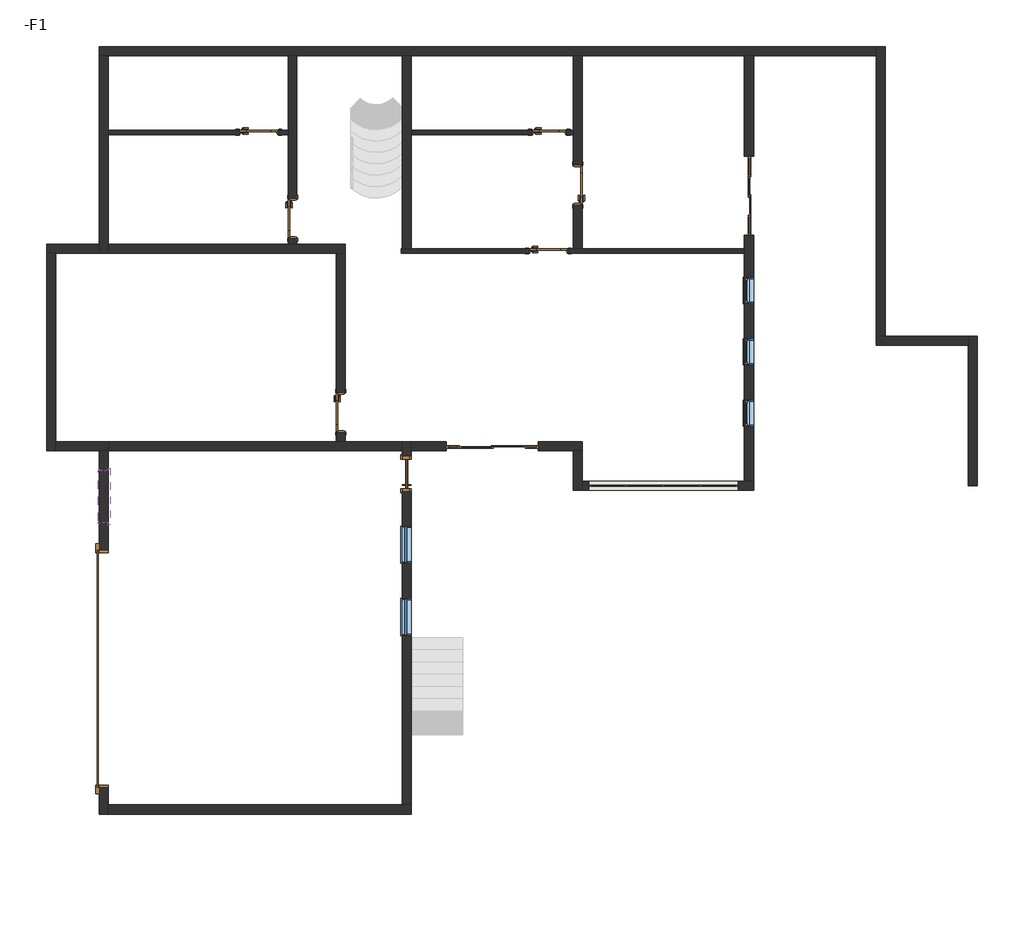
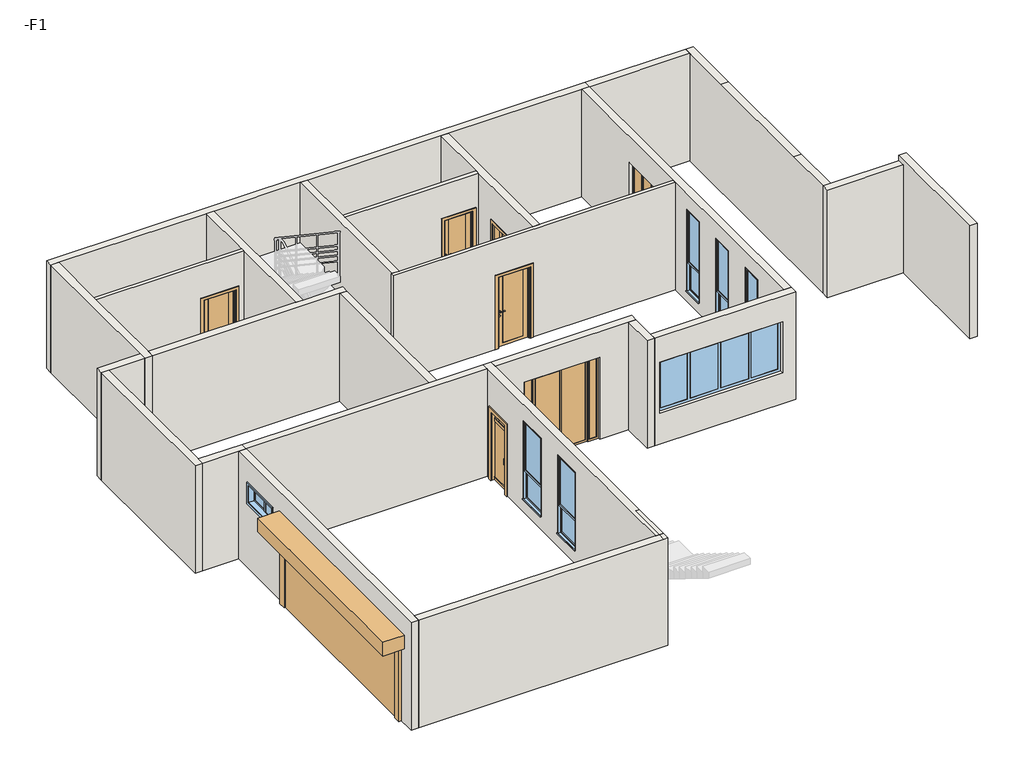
# One storey, part 1 of 3: 24 walls, 10 doors, 7 windows.
"""IFC4 building model written with IfcOpenShell, lengths in millimetres."""

from ifc_helpers import new_model, si_unit, frame, origin, place, context, project, spatial, polyline, outline, extrude, faceted_brep, transform, mapped, element, save
from components import door_800_x_2100_mm_cdd5fc6d, door_900_x_2100_mm_c85060e9, door_900_x_2100_mm_efe0f083, jlm5422_f6e8e53c, m0821_c18f4d9a, ym2124_6b214408, ym3267_0cb6c473, c0624_d918e3f5, c0823_e49a13fc, c1206_2babd59b, c3415_a57d7b54

model = new_model("IFC4")

# Units and contexts
model_context = context("Model", 3, world=origin())
ifc_project = project(units=[si_unit("LENGTHUNIT", "METRE", prefix="MILLI")], contexts=[model_context])

# Site, building, storey
site = spatial("IfcSite", under=ifc_project)
building = spatial("IfcBuilding", under=site)
storey = spatial("IfcBuildingStorey", under=building, Name="-F1", Elevation=-3300.0)

# Doors
placement = place(None, origin())
door_800_x_2100_mm_shape = door_800_x_2100_mm_cdd5fc6d(model_context)
element("IfcDoor", 1, ObjectType="单扇平开门-木门 : 800 x 2100 mm", at=placement, inside=storey, context=model_context, shape_type="MappedRepresentation", body=[
    mapped(door_800_x_2100_mm_shape, transform((-6705.9782681, -1381.0286905, -3300.0), x_axis=(1.0, 0.0, 0.0), y_axis=(0.0, 1.0, 0.0), z_axis=(0.0, 0.0, 1.0))),
])
door_900_x_2100_mm_shape = door_900_x_2100_mm_c85060e9(model_context)
element("IfcDoor", 2, ObjectType="单扇平开门-木门 : 900 x 2100 mm", at=placement, inside=storey, context=model_context, shape_type="MappedRepresentation", body=[
    mapped(door_900_x_2100_mm_shape, transform((-6055.9782681, -2581.0286905, -3300.0), x_axis=(0.0, 1.0, 0.0), y_axis=(-1.0, 0.0, 0.0), z_axis=(0.0, 0.0, 1.0))),
])
element("IfcDoor", 3, ObjectType="单扇平开门-木门 : 900 x 2100 mm", at=placement, inside=storey, context=model_context, shape_type="MappedRepresentation", body=[
    mapped(door_900_x_2100_mm_shape, transform((-12555.9782681, -3341.0286905, -3300.0), x_axis=(0.0, -1.0, 0.0), y_axis=(1.0, 0.0, 0.0), z_axis=(0.0, 0.0, 1.0))),
])
element("IfcDoor", 4, ObjectType="单扇平开门-木门 : 900 x 2100 mm", at=placement, inside=storey, context=model_context, shape_type="MappedRepresentation", body=[
    mapped(door_900_x_2100_mm_shape, transform((-11455.9782681, -7761.0286905, -3300.0), x_axis=(0.0, -1.0, 0.0), y_axis=(1.0, 0.0, 0.0), z_axis=(0.0, 0.0, 1.0))),
])
door_900_x_2100_mm_2_shape = door_900_x_2100_mm_efe0f083(model_context)
element("IfcDoor", 5, ObjectType="单扇平开门-木门 : 900 x 2100 mm", at=placement, inside=storey, context=model_context, shape_type="MappedRepresentation", body=[
    mapped(door_900_x_2100_mm_2_shape, transform((-6725.9782681, -4081.0286905, -3300.0), x_axis=(1.0, 0.0, 0.0), y_axis=(0.0, 1.0, 0.0), z_axis=(0.0, 0.0, 1.0))),
])
element("IfcDoor", 6, ObjectType="单扇平开门-木门 : 900 x 2100 mm", at=placement, inside=storey, context=model_context, shape_type="MappedRepresentation", body=[
    mapped(door_900_x_2100_mm_2_shape, transform((-13325.9782681, -1381.0286905, -3300.0), x_axis=(1.0, 0.0, 0.0), y_axis=(0.0, 1.0, 0.0), z_axis=(0.0, 0.0, 1.0))),
])
jlm5422_shape = jlm5422_f6e8e53c(model_context)
element("IfcDoor", 7, ObjectType="卷帘门 : JLM5422", at=placement, inside=storey, context=model_context, shape_type="MappedRepresentation", body=[
    mapped(jlm5422_shape, transform((-16855.9782681, -13606.0286905, -3300.0), x_axis=(0.0, 1.0, 0.0), y_axis=(-1.0, 0.0, 0.0), z_axis=(0.0, 0.0, 1.0))),
])
m0821_shape = m0821_c18f4d9a(model_context)
element("IfcDoor", 8, ObjectType="平开玻璃门B-单扇2 : M0821", at=placement, inside=storey, context=model_context, shape_type="MappedRepresentation", body=[
    mapped(m0821_shape, transform((-9955.9782681, -8911.0286905, -3300.0), x_axis=(0.0, 1.0, 0.0), y_axis=(-1.0, 0.0, 0.0), z_axis=(0.0, 0.0, 1.0))),
])
ym2124_shape = ym2124_6b214408(model_context)
element("IfcDoor", 9, ObjectType="移门-推拉门 : YM2124", at=placement, inside=storey, context=model_context, shape_type="MappedRepresentation", body=[
    mapped(ym2124_shape, transform((-8005.9782681, -8531.0286905, -3300.0), x_axis=(-1.0, 0.0, 0.0), y_axis=(0.0, -1.0, 0.0), z_axis=(0.0, 0.0, 1.0))),
])
ym3267_shape = ym3267_0cb6c473(model_context)
element("IfcDoor", 10, ObjectType="移门-推拉门 : YM3267", at=placement, inside=storey, context=model_context, shape_type="MappedRepresentation", body=[
    mapped(ym3267_shape, transform((-2155.9782681, -2831.0286905, -3300.0), x_axis=(0.0, -1.0, 0.0), y_axis=(1.0, 0.0, 0.0), z_axis=(0.0, 0.0, 1.0))),
])

# Walls
element("IfcWall", 11, ObjectType="外饰面 - 200mm", at=placement, inside=storey, context=model_context, shape_type="Brep", body=[
    faceted_brep([(3049.0217319, -9431.0286905, -3300.0), (3049.0217319, -6026.0286905, -3300.0), (3049.0217319, -6026.0286905, 0.0), (3049.0217319, -9431.0286905, 0.0), (2839.0217319, -9431.0286905, -3300.0), (2839.0217319, -9431.0286905, 0.0), (2839.0217319, -6026.0286905, 0.0), (2839.0217319, -6026.0286905, -150.0), (2839.0217319, -6026.0286905, -3300.0), (2839.0217319, -6236.0286905, -3300.0)], [[[0, 1, 2, 3]], [[4, 5, 6, 7, 8, 9]], [[1, 0, 4, 9, 8]], [[3, 2, 6, 5]], [[0, 3, 5, 4]], [[2, 1, 8, 7, 6]]]),
])
element("IfcWall", 12, ObjectType="外饰面 - 200mm", at=placement, inside=storey, context=model_context, shape_type="Brep", body=[
    faceted_brep([(2839.0217319, -6026.0286905, -3300.0), (949.0217319, -6026.0286905, -3300.0), (739.0217319, -6026.0286905, -3300.0), (739.0217319, -6026.0286905, -150.0), (949.0217319, -6026.0286905, -150.0), (2839.0217319, -6026.0286905, -150.0), (2839.0217319, -6236.0286905, -3300.0), (2839.0217319, -6236.0286905, -150.0), (739.0217319, -6236.0286905, -150.0), (739.0217319, -6236.0286905, -3300.0)], [[[0, 1, 2, 3, 4, 5]], [[6, 7, 8, 9]], [[2, 1, 0, 6, 9]], [[5, 4, 3, 8, 7]], [[0, 5, 7, 6]], [[3, 2, 9, 8]]]),
])
element("IfcWall", 13, ObjectType="外饰面 - 200mm", at=placement, inside=storey, context=model_context, shape_type="Brep", body=[
    faceted_brep([(949.0217319, -6026.0286905, -3300.0), (949.0217319, 573.9713095, -3300.0), (949.0217319, 573.9713095, -150.0), (949.0217319, -1118.8242174, -150.0), (949.0217319, -4618.8242174, -150.0), (949.0217319, -6026.0286905, -150.0), (739.0217319, -6026.0286905, -3300.0), (739.0217319, -6026.0286905, -150.0), (739.0217319, -4618.8242174, -150.0), (739.0217319, -1118.8242174, -150.0), (739.0217319, 363.9713095, -150.0), (739.0217319, 573.9713095, -150.0), (739.0217319, 573.9713095, -3300.0), (739.0217319, 363.9713095, -3300.0)], [[[0, 1, 2, 3, 4, 5]], [[6, 7, 8, 9, 10, 11, 12, 13]], [[0, 5, 7, 6]], [[2, 1, 12, 11]], [[1, 0, 6, 13, 12]], [[3, 2, 11, 10, 9]], [[5, 4, 8, 7]], [[4, 3, 9, 8]]]),
])
element("IfcWall", 14, ObjectType="外饰面 - 200mm", at=placement, inside=storey, context=model_context, shape_type="Brep", body=[
    faceted_brep([(739.0217319, 573.9713095, -3300.0), (-16960.9782681, 573.9713095, -3300.0), (-16960.9782681, 573.9713095, -150.0), (-2035.9782681, 573.9713095, -150.0), (739.0217319, 573.9713095, -150.0), (739.0217319, 363.9713095, -3300.0), (739.0217319, 363.9713095, -150.0), (-2035.9782681, 363.9713095, -150.0), (-2050.9782681, 363.9713095, -150.0), (-2260.9782681, 363.9713095, -150.0), (-5955.9782681, 363.9713095, -150.0), (-6155.9782681, 363.9713095, -150.0), (-9855.9782681, 363.9713095, -150.0), (-10055.9782681, 363.9713095, -150.0), (-12455.9782681, 363.9713095, -150.0), (-12655.9782681, 363.9713095, -150.0), (-16750.9782681, 363.9713095, -150.0), (-16960.9782681, 363.9713095, -150.0), (-16960.9782681, 363.9713095, -3300.0), (-16750.9782681, 363.9713095, -3300.0), (-12655.9782681, 363.9713095, -3300.0), (-12455.9782681, 363.9713095, -3300.0), (-10055.9782681, 363.9713095, -3300.0), (-9855.9782681, 363.9713095, -3300.0), (-6155.9782681, 363.9713095, -3300.0), (-5955.9782681, 363.9713095, -3300.0), (-2260.9782681, 363.9713095, -3300.0), (-2050.9782681, 363.9713095, -3300.0)], [[[0, 1, 2, 3, 4]], [[5, 6, 7, 8, 9, 10, 11, 12, 13, 14, 15, 16, 17, 18, 19, 20, 21, 22, 23, 24, 25, 26, 27]], [[1, 0, 5, 27, 26, 25, 24, 23, 22, 21, 20, 19, 18]], [[0, 4, 6, 5]], [[2, 1, 18, 17]], [[4, 3, 7, 6]], [[3, 2, 17, 16, 15, 14, 13, 12, 11, 10, 9, 8, 7]]]),
])
element("IfcWall", 15, ObjectType="外饰面 - 200mm", at=placement, inside=storey, context=model_context, shape_type="Brep", body=[
    faceted_brep([(-16960.9782681, 363.9713095, -3300.0), (-16960.9782681, -3926.0286905, -3300.0), (-16960.9782681, -4136.0286905, -3300.0), (-16960.9782681, -4136.0286905, -150.0), (-16960.9782681, -3926.0286905, -150.0), (-16960.9782681, 363.9713095, -150.0), (-16750.9782681, 363.9713095, -3300.0), (-16750.9782681, 363.9713095, -150.0), (-16750.9782681, -1331.0286905, -150.0), (-16750.9782681, -1431.0286905, -150.0), (-16750.9782681, -3931.0286905, -150.0), (-16750.9782681, -4131.0286905, -150.0), (-16750.9782681, -4136.0286905, -150.0), (-16750.9782681, -4136.0286905, -3300.0), (-16750.9782681, -4131.0286905, -3300.0), (-16750.9782681, -3931.0286905, -3300.0), (-16750.9782681, -1431.0286905, -3300.0), (-16750.9782681, -1331.0286905, -3300.0)], [[[0, 1, 2, 3, 4, 5]], [[6, 7, 8, 9, 10, 11, 12, 13, 14, 15, 16, 17]], [[2, 1, 0, 6, 17, 16, 15, 14, 13]], [[0, 5, 7, 6]], [[3, 2, 13, 12]], [[5, 4, 3, 12, 11, 10, 9, 8, 7]]]),
])
element("IfcWall", 16, ObjectType="外饰面 - 200mm", at=placement, inside=storey, context=model_context, shape_type="Brep", body=[
    faceted_brep([(-16960.9782681, -3926.0286905, -3300.0), (-18160.9782681, -3926.0286905, -3300.0), (-18160.9782681, -3926.0286905, -150.0), (-16960.9782681, -3926.0286905, -150.0), (-16960.9782681, -4136.0286905, -3300.0), (-16960.9782681, -4136.0286905, -150.0), (-17950.9782681, -4136.0286905, -150.0), (-18160.9782681, -4136.0286905, -150.0), (-18160.9782681, -4136.0286905, -3300.0), (-17950.9782681, -4136.0286905, -3300.0)], [[[0, 1, 2, 3]], [[4, 5, 6, 7, 8, 9]], [[1, 0, 4, 9, 8]], [[0, 3, 5, 4]], [[2, 1, 8, 7]], [[3, 2, 7, 6, 5]]]),
])
element("IfcWall", 17, ObjectType="外饰面 - 200mm", at=placement, inside=storey, context=model_context, shape_type="Brep", body=[
    faceted_brep([(-18160.9782681, -4136.0286905, -3300.0), (-18160.9782681, -8636.0286905, -3300.0), (-18160.9782681, -8636.0286905, -150.0), (-18160.9782681, -4136.0286905, -150.0), (-17950.9782681, -4136.0286905, -3300.0), (-17950.9782681, -4136.0286905, -150.0), (-17950.9782681, -8426.0286905, -150.0), (-17950.9782681, -8636.0286905, -150.0), (-17950.9782681, -8636.0286905, -3300.0), (-17950.9782681, -8426.0286905, -3300.0)], [[[0, 1, 2, 3]], [[4, 5, 6, 7, 8, 9]], [[1, 0, 4, 9, 8]], [[0, 3, 5, 4]], [[2, 1, 8, 7]], [[3, 2, 7, 6, 5]]]),
])
element("IfcWall", 18, ObjectType="外饰面 - 200mm", at=placement, inside=storey, context=model_context, shape_type="Brep", body=[
    faceted_brep([(-17950.9782681, -8636.0286905, -3300.0), (-16960.9782681, -8636.0286905, -3300.0), (-16750.9782681, -8636.0286905, -3300.0), (-16750.9782681, -8636.0286905, -150.0), (-16960.9782681, -8636.0286905, -150.0), (-17950.9782681, -8636.0286905, -150.0), (-17950.9782681, -8426.0286905, -3300.0), (-17950.9782681, -8426.0286905, -150.0), (-16750.9782681, -8426.0286905, -150.0), (-16750.9782681, -8426.0286905, -3300.0), (-16750.9782681, -8431.0286905, -3300.0), (-16750.9782681, -8631.0286905, -3300.0), (-16750.9782681, -8431.0286905, -150.0), (-16750.9782681, -8631.0286905, -150.0)], [[[0, 1, 2, 3, 4, 5]], [[6, 7, 8, 9]], [[2, 1, 0, 6, 9, 10, 11]], [[0, 5, 7, 6]], [[3, 2, 11, 10, 9, 8, 12, 13]], [[5, 4, 3, 13, 12, 8, 7]]]),
])
element("IfcWall", 19, ObjectType="外饰面 - 200mm", at=placement, inside=storey, context=model_context, shape_type="Brep", body=[
    faceted_brep([(-16960.9782681, -8636.0286905, -150.0), (-16960.9782681, -8636.0286905, -3300.0), (-16960.9782681, -10906.0286905, -3300.0), (-16960.9782681, -10906.0286905, -1100.0), (-16960.9782681, -16306.0286905, -1100.0), (-16960.9782681, -16306.0286905, -3300.0), (-16960.9782681, -16916.0286905, -3300.0), (-16960.9782681, -16916.0286905, -150.0), (-16960.9782681, -10281.0286905, -800.0), (-16960.9782681, -10281.0286905, -1400.0), (-16960.9782681, -9081.0286905, -1400.0), (-16960.9782681, -9081.0286905, -800.0), (-16750.9782681, -8636.0286905, -3300.0), (-16750.9782681, -8636.0286905, -150.0), (-16750.9782681, -16706.0286905, -150.0), (-16750.9782681, -16916.0286905, -150.0), (-16750.9782681, -16916.0286905, -3300.0), (-16750.9782681, -16706.0286905, -3300.0), (-16750.9782681, -16306.0286905, -3300.0), (-16750.9782681, -16306.0286905, -1100.0), (-16750.9782681, -10906.0286905, -1100.0), (-16750.9782681, -10906.0286905, -3300.0), (-16750.9782681, -10281.0286905, -800.0), (-16750.9782681, -9081.0286905, -800.0), (-16750.9782681, -9081.0286905, -1400.0), (-16750.9782681, -10281.0286905, -1400.0)], [[[0, 1, 2, 3, 4, 5, 6, 7], [8, 9, 10, 11]], [[12, 13, 14, 15, 16, 17, 18, 19, 20, 21], [22, 23, 24, 25]], [[1, 12, 21, 2]], [[16, 6, 5, 18, 17]], [[1, 0, 13, 12]], [[7, 6, 16, 15]], [[9, 8, 22, 25]], [[10, 9, 25, 24]], [[11, 10, 24, 23]], [[8, 11, 23, 22]], [[20, 3, 2, 21]], [[3, 20, 19, 4]], [[4, 19, 18, 5]], [[0, 7, 15, 14, 13]]]),
])
element("IfcWall", 20, ObjectType="外饰面 - 200mm", at=placement, inside=storey, context=model_context, shape_type="Brep", body=[
    faceted_brep([(-16750.9782681, -16916.0286905, -3300.0), (-9850.9782681, -16916.0286905, -3300.0), (-9850.9782681, -16916.0286905, -150.0), (-9955.9782681, -16916.0286905, -150.0), (-16750.9782681, -16916.0286905, -150.0), (-16750.9782681, -16706.0286905, -3300.0), (-16750.9782681, -16706.0286905, -150.0), (-10060.9782681, -16706.0286905, -150.0), (-9955.9782681, -16706.0286905, -150.0), (-9850.9782681, -16706.0286905, -150.0), (-9850.9782681, -16706.0286905, -3300.0), (-10060.9782681, -16706.0286905, -3300.0)], [[[0, 1, 2, 3, 4]], [[5, 6, 7, 8, 9, 10, 11]], [[1, 0, 5, 11, 10]], [[0, 4, 6, 5]], [[2, 1, 10, 9]], [[3, 2, 9, 8]], [[4, 3, 8, 7, 6]]]),
])
element("IfcWall", 21, ObjectType="外饰面 - 200mm", at=placement, inside=storey, context=model_context, shape_type="Brep", body=[
    faceted_brep([(-9850.9782681, -8751.0286905, -1200.0), (-9850.9782681, -8751.0286905, -3300.0), (-9850.9782681, -8636.0286905, -3300.0), (-9850.9782681, -8426.0286905, -3300.0), (-9850.9782681, -8426.0286905, -150.0), (-9850.9782681, -8636.0286905, -150.0), (-9850.9782681, -15551.0286905, -150.0), (-9850.9782681, -16706.0286905, -150.0), (-9850.9782681, -16706.0286905, -3300.0), (-9850.9782681, -9571.0286905, -3300.0), (-9850.9782681, -9571.0286905, -1200.0), (-9850.9782681, -12001.0286905, -625.0), (-9850.9782681, -12001.0286905, -2925.0), (-9850.9782681, -12851.0286905, -2925.0), (-9850.9782681, -12851.0286905, -625.0), (-9850.9782681, -10351.0286905, -625.0), (-9850.9782681, -10351.0286905, -2925.0), (-9850.9782681, -11201.0286905, -2925.0), (-9850.9782681, -11201.0286905, -625.0), (-10060.9782681, -8426.0286905, -3300.0), (-10060.9782681, -8431.0286905, -3300.0), (-10060.9782681, -8631.0286905, -3300.0), (-10060.9782681, -8751.0286905, -3300.0), (-10060.9782681, -8751.0286905, -1200.0), (-10060.9782681, -9571.0286905, -1200.0), (-10060.9782681, -9571.0286905, -3300.0), (-10060.9782681, -16706.0286905, -3300.0), (-10060.9782681, -16706.0286905, -150.0), (-10060.9782681, -15551.0286905, -150.0), (-10060.9782681, -8631.0286905, -150.0), (-10060.9782681, -8431.0286905, -150.0), (-10060.9782681, -8426.0286905, -150.0), (-10060.9782681, -12001.0286905, -625.0), (-10060.9782681, -12851.0286905, -625.0), (-10060.9782681, -12851.0286905, -2925.0), (-10060.9782681, -12001.0286905, -2925.0), (-10060.9782681, -10351.0286905, -625.0), (-10060.9782681, -11201.0286905, -625.0), (-10060.9782681, -11201.0286905, -2925.0), (-10060.9782681, -10351.0286905, -2925.0), (-9955.9782681, -16706.0286905, -150.0), (-9955.9782681, -15551.0286905, -150.0)], [[[0, 1, 2, 3, 4, 5, 6, 7, 8, 9, 10], [11, 12, 13, 14], [15, 16, 17, 18]], [[19, 20, 21, 22, 23, 24, 25, 26, 27, 28, 29, 30, 31], [32, 33, 34, 35], [36, 37, 38, 39]], [[9, 8, 26, 25]], [[3, 2, 1, 22, 21, 20, 19]], [[8, 7, 40, 27, 26]], [[31, 4, 3, 19]], [[12, 11, 32, 35]], [[13, 12, 35, 34]], [[14, 13, 34, 33]], [[11, 14, 33, 32]], [[16, 15, 36, 39]], [[17, 16, 39, 38]], [[18, 17, 38, 37]], [[15, 18, 37, 36]], [[25, 24, 10, 9]], [[23, 22, 1, 0]], [[24, 23, 0, 10]], [[7, 6, 41, 40]], [[6, 5, 4, 31, 30, 29, 28, 27, 40, 41]]]),
])
element("IfcWall", 22, ObjectType="外饰面 - 200mm", at=placement, inside=storey, context=model_context, shape_type="Brep", body=[
    faceted_brep([(-9850.9782681, -8636.0286905, -150.0), (-9850.9782681, -8636.0286905, -3300.0), (-9055.9782681, -8636.0286905, -3300.0), (-9055.9782681, -8636.0286905, -900.0), (-6955.9782681, -8636.0286905, -900.0), (-6955.9782681, -8636.0286905, -3300.0), (-6160.9782681, -8636.0286905, -3300.0), (-5950.9782681, -8636.0286905, -3300.0), (-5950.9782681, -8636.0286905, -150.0), (-6160.9782681, -8636.0286905, -150.0), (-9850.9782681, -8426.0286905, -3300.0), (-9850.9782681, -8426.0286905, -150.0), (-5950.9782681, -8426.0286905, -150.0), (-5950.9782681, -8426.0286905, -3300.0), (-6955.9782681, -8426.0286905, -3300.0), (-6955.9782681, -8426.0286905, -900.0), (-9055.9782681, -8426.0286905, -900.0), (-9055.9782681, -8426.0286905, -3300.0)], [[[0, 1, 2, 3, 4, 5, 6, 7, 8, 9]], [[10, 11, 12, 13, 14, 15, 16, 17]], [[1, 10, 17, 2]], [[13, 7, 6, 5, 14]], [[1, 0, 11, 10]], [[8, 7, 13, 12]], [[16, 3, 2, 17]], [[3, 16, 15, 4]], [[4, 15, 14, 5]], [[0, 9, 8, 12, 11]]]),
])
element("IfcWall", 23, ObjectType="外饰面 - 200mm", at=placement, inside=storey, context=model_context, shape_type="Brep", body=[
    faceted_brep([(-6160.9782681, -8636.0286905, -3300.0), (-6160.9782681, -9536.0286905, -3300.0), (-6160.9782681, -9536.0286905, -150.0), (-6160.9782681, -8636.0286905, -150.0), (-5950.9782681, -8636.0286905, -3300.0), (-5950.9782681, -8636.0286905, -150.0), (-5950.9782681, -9326.0286905, -150.0), (-5950.9782681, -9536.0286905, -150.0), (-5950.9782681, -9536.0286905, -3300.0), (-5950.9782681, -9326.0286905, -3300.0)], [[[0, 1, 2, 3]], [[4, 5, 6, 7, 8, 9]], [[1, 0, 4, 9, 8]], [[0, 3, 5, 4]], [[2, 1, 8, 7]], [[3, 2, 7, 6, 5]]]),
])
element("IfcWall", 24, ObjectType="外饰面 - 200mm", at=placement, inside=storey, context=model_context, shape_type="Brep", body=[
    faceted_brep([(-5950.9782681, -9536.0286905, -3300.0), (-2050.9782681, -9536.0286905, -3300.0), (-2050.9782681, -9536.0286905, -150.0), (-5950.9782681, -9536.0286905, -150.0), (-5805.9782681, -9536.0286905, -2400.0), (-5805.9782681, -9536.0286905, -900.0), (-2405.9782681, -9536.0286905, -900.0), (-2405.9782681, -9536.0286905, -2400.0), (-2050.9782681, -9326.0286905, -3300.0), (-2260.9782681, -9326.0286905, -3300.0), (-5950.9782681, -9326.0286905, -3300.0), (-5950.9782681, -9326.0286905, -150.0), (-2260.9782681, -9326.0286905, -150.0), (-2050.9782681, -9326.0286905, -150.0), (-5805.9782681, -9326.0286905, -900.0), (-5805.9782681, -9326.0286905, -2400.0), (-2405.9782681, -9326.0286905, -2400.0), (-2405.9782681, -9326.0286905, -900.0)], [[[0, 1, 2, 3], [4, 5, 6, 7]], [[8, 9, 10, 11, 12, 13], [14, 15, 16, 17]], [[1, 0, 10, 9, 8]], [[0, 3, 11, 10]], [[2, 1, 8, 13]], [[3, 2, 13, 12, 11]], [[4, 15, 14, 5]], [[6, 17, 16, 7]], [[15, 4, 7, 16]], [[17, 6, 5, 14]]]),
])
element("IfcWall", 25, ObjectType="外饰面 - 200mm", at=placement, inside=storey, context=model_context, shape_type="Brep", body=[
    faceted_brep([(-2050.9782681, -9326.0286905, -150.0), (-2050.9782681, -9326.0286905, -3300.0), (-2050.9782681, -3731.0286905, -3300.0), (-2050.9782681, -3731.0286905, -900.0), (-2050.9782681, -1931.0286905, -900.0), (-2050.9782681, -1931.0286905, -3300.0), (-2050.9782681, 363.9713095, -3300.0), (-2050.9782681, 363.9713095, -150.0), (-2050.9782681, -4681.0286905, -600.0), (-2050.9782681, -4681.0286905, -3000.0), (-2050.9782681, -5281.0286905, -3000.0), (-2050.9782681, -5281.0286905, -600.0), (-2050.9782681, -6081.0286905, -600.0), (-2050.9782681, -6081.0286905, -3000.0), (-2050.9782681, -6681.0286905, -3000.0), (-2050.9782681, -6681.0286905, -600.0), (-2050.9782681, -7481.0286905, -600.0), (-2050.9782681, -7481.0286905, -3000.0), (-2050.9782681, -8081.0286905, -3000.0), (-2050.9782681, -8081.0286905, -600.0), (-2260.9782681, -9326.0286905, -3300.0), (-2260.9782681, -9326.0286905, -150.0), (-2260.9782681, -4131.0286905, -150.0), (-2260.9782681, -4031.0286905, -150.0), (-2260.9782681, 363.9713095, -150.0), (-2260.9782681, 363.9713095, -3300.0), (-2260.9782681, -1931.0286905, -3300.0), (-2260.9782681, -1931.0286905, -900.0), (-2260.9782681, -3731.0286905, -900.0), (-2260.9782681, -3731.0286905, -3300.0), (-2260.9782681, -4031.0286905, -3300.0), (-2260.9782681, -4131.0286905, -3300.0), (-2260.9782681, -4681.0286905, -600.0), (-2260.9782681, -5281.0286905, -600.0), (-2260.9782681, -5281.0286905, -3000.0), (-2260.9782681, -4681.0286905, -3000.0), (-2260.9782681, -6081.0286905, -600.0), (-2260.9782681, -6681.0286905, -600.0), (-2260.9782681, -6681.0286905, -3000.0), (-2260.9782681, -6081.0286905, -3000.0), (-2260.9782681, -7481.0286905, -600.0), (-2260.9782681, -8081.0286905, -600.0), (-2260.9782681, -8081.0286905, -3000.0), (-2260.9782681, -7481.0286905, -3000.0)], [[[0, 1, 2, 3, 4, 5, 6, 7], [8, 9, 10, 11], [12, 13, 14, 15], [16, 17, 18, 19]], [[20, 21, 22, 23, 24, 25, 26, 27, 28, 29, 30, 31], [32, 33, 34, 35], [36, 37, 38, 39], [40, 41, 42, 43]], [[1, 20, 31, 30, 29, 2]], [[25, 6, 5, 26]], [[1, 0, 21, 20]], [[7, 6, 25, 24]], [[9, 8, 32, 35]], [[10, 9, 35, 34]], [[11, 10, 34, 33]], [[8, 11, 33, 32]], [[13, 12, 36, 39]], [[14, 13, 39, 38]], [[15, 14, 38, 37]], [[12, 15, 37, 36]], [[17, 16, 40, 43]], [[18, 17, 43, 42]], [[19, 18, 42, 41]], [[16, 19, 41, 40]], [[28, 3, 2, 29]], [[3, 28, 27, 4]], [[4, 27, 26, 5]], [[0, 7, 24, 23, 22, 21]]]),
])
element("IfcWall", 26, ObjectType="常规 - 200mm - 实心", at=placement, inside=storey, context=model_context, shape_type="Brep", body=[
    faceted_brep([(-6155.9782681, 363.9713095, -150.0), (-6155.9782681, 363.9713095, -3300.0), (-6155.9782681, -1331.0286905, -3300.0), (-6155.9782681, -1431.0286905, -3300.0), (-6155.9782681, -2131.0286905, -3300.0), (-6155.9782681, -2131.0286905, -1200.0), (-6155.9782681, -3031.0286905, -1200.0), (-6155.9782681, -3031.0286905, -3300.0), (-6155.9782681, -4031.0286905, -3300.0), (-6155.9782681, -4031.0286905, -150.0), (-6155.9782681, -1431.0286905, -150.0), (-6155.9782681, -1331.0286905, -150.0), (-5955.9782681, 363.9713095, -3300.0), (-5955.9782681, 363.9713095, -150.0), (-5955.9782681, -4031.0286905, -150.0), (-5955.9782681, -4031.0286905, -3300.0), (-5955.9782681, -3031.0286905, -3300.0), (-5955.9782681, -3031.0286905, -1200.0), (-5955.9782681, -2131.0286905, -1200.0), (-5955.9782681, -2131.0286905, -3300.0)], [[[0, 1, 2, 3, 4, 5, 6, 7, 8, 9, 10, 11]], [[12, 13, 14, 15, 16, 17, 18, 19]], [[1, 12, 19, 4, 3, 2]], [[15, 8, 7, 16]], [[1, 0, 13, 12]], [[9, 8, 15, 14]], [[18, 5, 4, 19]], [[5, 18, 17, 6]], [[6, 17, 16, 7]], [[0, 11, 10, 9, 14, 13]]]),
])
element("IfcWall", 27, ObjectType="常规 - 200mm - 实心", at=placement, inside=storey, context=model_context, shape_type="Brep", body=[
    faceted_brep([(-10055.9782681, 363.9713095, -3300.0), (-10055.9782681, -4031.0286905, -3300.0), (-10055.9782681, -4031.0286905, -150.0), (-10055.9782681, 363.9713095, -150.0), (-9855.9782681, 363.9713095, -3300.0), (-9855.9782681, 363.9713095, -150.0), (-9855.9782681, -1331.0286905, -150.0), (-9855.9782681, -1431.0286905, -150.0), (-9855.9782681, -4031.0286905, -150.0), (-9855.9782681, -4031.0286905, -3300.0), (-9855.9782681, -1431.0286905, -3300.0), (-9855.9782681, -1331.0286905, -3300.0)], [[[0, 1, 2, 3]], [[4, 5, 6, 7, 8, 9, 10, 11]], [[1, 0, 4, 11, 10, 9]], [[0, 3, 5, 4]], [[3, 2, 8, 7, 6, 5]], [[2, 1, 9, 8]]]),
])
element("IfcWall", 28, ObjectType="常规 - 200mm - 实心", at=placement, inside=storey, context=model_context, shape_type="Brep", body=[
    faceted_brep([(-12655.9782681, 363.9713095, -150.0), (-12655.9782681, 363.9713095, -3300.0), (-12655.9782681, -1331.0286905, -3300.0), (-12655.9782681, -1431.0286905, -3300.0), (-12655.9782681, -2891.0286905, -3300.0), (-12655.9782681, -2891.0286905, -1200.0), (-12655.9782681, -3791.0286905, -1200.0), (-12655.9782681, -3791.0286905, -3300.0), (-12655.9782681, -3931.0286905, -3300.0), (-12655.9782681, -3931.0286905, -150.0), (-12655.9782681, -1431.0286905, -150.0), (-12655.9782681, -1331.0286905, -150.0), (-12455.9782681, 363.9713095, -3300.0), (-12455.9782681, 363.9713095, -150.0), (-12455.9782681, 358.9713095, -150.0), (-12455.9782681, -3691.0286905, -150.0), (-12455.9782681, -3931.0286905, -150.0), (-12455.9782681, -3931.0286905, -3300.0), (-12455.9782681, -3791.0286905, -3300.0), (-12455.9782681, -3791.0286905, -1200.0), (-12455.9782681, -2891.0286905, -1200.0), (-12455.9782681, -2891.0286905, -3300.0)], [[[0, 1, 2, 3, 4, 5, 6, 7, 8, 9, 10, 11]], [[12, 13, 14, 15, 16, 17, 18, 19, 20, 21]], [[1, 12, 21, 4, 3, 2]], [[17, 8, 7, 18]], [[1, 0, 13, 12]], [[9, 8, 17, 16]], [[6, 19, 18, 7]], [[19, 6, 5, 20]], [[20, 5, 4, 21]], [[13, 0, 11, 10, 9, 16, 15, 14]]]),
])
element("IfcWall", 29, ObjectType="常规 - 200mm - 实心", at=placement, inside=storey, context=model_context, shape_type="Brep", body=[
    faceted_brep([(-16750.9782681, -4131.0286905, -3300.0), (-11555.9782681, -4131.0286905, -3300.0), (-11355.9782681, -4131.0286905, -3300.0), (-11355.9782681, -4131.0286905, -150.0), (-11555.9782681, -4131.0286905, -150.0), (-16750.9782681, -4131.0286905, -150.0), (-16750.9782681, -3931.0286905, -3300.0), (-16750.9782681, -3931.0286905, -150.0), (-12655.9782681, -3931.0286905, -150.0), (-12455.9782681, -3931.0286905, -150.0), (-11355.9782681, -3931.0286905, -150.0), (-11355.9782681, -3931.0286905, -3300.0), (-12455.9782681, -3931.0286905, -3300.0), (-12655.9782681, -3931.0286905, -3300.0)], [[[0, 1, 2, 3, 4, 5]], [[6, 7, 8, 9, 10, 11, 12, 13]], [[2, 1, 0, 6, 13, 12, 11]], [[0, 5, 7, 6]], [[3, 2, 11, 10]], [[5, 4, 3, 10, 9, 8, 7]]]),
])
element("IfcWall", 30, ObjectType="常规 - 200mm - 实心", at=placement, inside=storey, context=model_context, shape_type="SweptSolid", body=[
    extrude(outline(polyline([(-4131.0286905, -150.0), (-4131.0286905, -3300.0), (-7311.0286905, -3300.0), (-7311.0286905, -1200.0), (-8211.0286905, -1200.0), (-8211.0286905, -3300.0), (-8431.0286905, -3300.0), (-8431.0286905, -150.0), (-4131.0286905, -150.0)])), frame((-11555.9782681, 0.0, 0.0), z_axis=(1.0, 0.0, 0.0), x_axis=(0.0, 1.0, 0.0)), (0.0, 0.0, 1.0), 200.0),
])
element("IfcWall", 31, ObjectType="常规 - 200mm - 实心", at=placement, inside=storey, context=model_context, shape_type="Brep", body=[
    faceted_brep([(-16750.9782681, -8631.0286905, -3300.0), (-10060.9782681, -8631.0286905, -3300.0), (-10060.9782681, -8631.0286905, -150.0), (-16750.9782681, -8631.0286905, -150.0), (-16750.9782681, -8431.0286905, -3300.0), (-16750.9782681, -8431.0286905, -150.0), (-11555.9782681, -8431.0286905, -150.0), (-11355.9782681, -8431.0286905, -150.0), (-10060.9782681, -8431.0286905, -150.0), (-10060.9782681, -8431.0286905, -3300.0), (-11355.9782681, -8431.0286905, -3300.0), (-11555.9782681, -8431.0286905, -3300.0)], [[[0, 1, 2, 3]], [[4, 5, 6, 7, 8, 9, 10, 11]], [[1, 0, 4, 11, 10, 9]], [[0, 3, 5, 4]], [[2, 1, 9, 8]], [[3, 2, 8, 7, 6, 5]]]),
])
element("IfcWall", 32, ObjectType="常规 - 100mm 砌体", at=placement, inside=storey, context=model_context, shape_type="SweptSolid", body=[
    extrude(outline(polyline([(-150.0, -16750.9782681), (-3300.0, -16750.9782681), (-3300.0, -13775.9782681), (-1200.0, -13775.9782681), (-1200.0, -12875.9782681), (-3300.0, -12875.9782681), (-3300.0, -12655.9782681), (-150.0, -12655.9782681), (-150.0, -16750.9782681)])), frame((0.0, -1431.0286905, 0.0), z_axis=(0.0, 1.0, 0.0), x_axis=(0.0, 0.0, 1.0)), (0.0, 0.0, 1.0), 100.0),
])
element("IfcWall", 33, ObjectType="常规 - 100mm 砌体", at=placement, inside=storey, context=model_context, shape_type="SweptSolid", body=[
    extrude(outline(polyline([(-3300.0, -6155.9782681), (-150.0, -6155.9782681), (-150.0, -9855.9782681), (-3300.0, -9855.9782681), (-3300.0, -7105.9782681), (-1200.0, -7105.9782681), (-1200.0, -6305.9782681), (-3300.0, -6305.9782681), (-3300.0, -6155.9782681)])), frame((0.0, -1431.0286905, 0.0), z_axis=(0.0, 1.0, 0.0), x_axis=(0.0, 0.0, 1.0)), (0.0, 0.0, 1.0), 100.0),
])
element("IfcWall", 34, ObjectType="常规 - 100mm 砌体", at=placement, inside=storey, context=model_context, shape_type="Brep", body=[
    faceted_brep([(-10075.9782681, -4131.0286905, -150.0), (-10075.9782681, -4131.0286905, -3300.0), (-7175.9782681, -4131.0286905, -3300.0), (-7175.9782681, -4131.0286905, -1200.0), (-6275.9782681, -4131.0286905, -1200.0), (-6275.9782681, -4131.0286905, -3300.0), (-2260.9782681, -4131.0286905, -3300.0), (-2260.9782681, -4131.0286905, -150.0), (-10075.9782681, -4031.0286905, -3300.0), (-10075.9782681, -4031.0286905, -150.0), (-10055.9782681, -4031.0286905, -150.0), (-9855.9782681, -4031.0286905, -150.0), (-6155.9782681, -4031.0286905, -150.0), (-5955.9782681, -4031.0286905, -150.0), (-2260.9782681, -4031.0286905, -150.0), (-2260.9782681, -4031.0286905, -3300.0), (-5955.9782681, -4031.0286905, -3300.0), (-6155.9782681, -4031.0286905, -3300.0), (-6275.9782681, -4031.0286905, -3300.0), (-6275.9782681, -4031.0286905, -1200.0), (-7175.9782681, -4031.0286905, -1200.0), (-7175.9782681, -4031.0286905, -3300.0), (-9855.9782681, -4031.0286905, -3300.0), (-10055.9782681, -4031.0286905, -3300.0)], [[[0, 1, 2, 3, 4, 5, 6, 7]], [[8, 9, 10, 11, 12, 13, 14, 15, 16, 17, 18, 19, 20, 21, 22, 23]], [[1, 8, 23, 22, 21, 2]], [[15, 6, 5, 18, 17, 16]], [[1, 0, 9, 8]], [[7, 6, 15, 14]], [[4, 19, 18, 5]], [[19, 4, 3, 20]], [[20, 3, 2, 21]], [[0, 7, 14, 13, 12, 11, 10, 9]]]),
])

# Windows
c0624_shape = c0624_d918e3f5(model_context)
element("IfcWindow", 35, ObjectType="上下拉窗1 : C0624", at=placement, inside=storey, context=model_context, shape_type="MappedRepresentation", body=[
    mapped(c0624_shape, transform((-2156.2167284, -4981.0286905, -3300.0), x_axis=(0.0, 1.0, 0.0), y_axis=(-1.0, 0.0, 0.0), z_axis=(0.0, 0.0, 1.0))),
])
element("IfcWindow", 36, ObjectType="上下拉窗1 : C0624", at=placement, inside=storey, context=model_context, shape_type="MappedRepresentation", body=[
    mapped(c0624_shape, transform((-2156.2167284, -6381.0286905, -3300.0), x_axis=(0.0, 1.0, 0.0), y_axis=(-1.0, 0.0, 0.0), z_axis=(0.0, 0.0, 1.0))),
])
element("IfcWindow", 37, ObjectType="上下拉窗1 : C0624", at=placement, inside=storey, context=model_context, shape_type="MappedRepresentation", body=[
    mapped(c0624_shape, transform((-2156.2167284, -7781.0286905, -3300.0), x_axis=(0.0, 1.0, 0.0), y_axis=(-1.0, 0.0, 0.0), z_axis=(0.0, 0.0, 1.0))),
])
c0823_shape = c0823_e49a13fc(model_context)
element("IfcWindow", 38, ObjectType="上下拉窗1 : C0823", at=placement, inside=storey, context=model_context, shape_type="MappedRepresentation", body=[
    mapped(c0823_shape, transform((-9956.2167284, -12426.0286905, -3225.0), x_axis=(0.0, 1.0, 0.0), y_axis=(-1.0, 0.0, 0.0), z_axis=(0.0, 0.0, 1.0))),
])
element("IfcWindow", 39, ObjectType="上下拉窗1 : C0823", at=placement, inside=storey, context=model_context, shape_type="MappedRepresentation", body=[
    mapped(c0823_shape, transform((-9956.2167284, -10776.0286905, -3225.0), x_axis=(0.0, 1.0, 0.0), y_axis=(-1.0, 0.0, 0.0), z_axis=(0.0, 0.0, 1.0))),
])
c1206_shape = c1206_2babd59b(model_context)
element("IfcWindow", 40, ObjectType="推拉窗5 - 带贴面 : C1206", at=placement, inside=storey, context=model_context, shape_type="MappedRepresentation", body=[
    mapped(c1206_shape, transform((-16789.1048306, -9671.5036905, -2305.0), x_axis=(0.0, -1.0, 0.0), y_axis=(1.0, 0.0, 0.0), z_axis=(0.0, 0.0, 1.0))),
])
c3415_shape = c3415_a57d7b54(model_context)
element("IfcWindow", 41, ObjectType="窗户 : C3415", at=placement, inside=storey, context=model_context, shape_type="MappedRepresentation", body=[
    mapped(c3415_shape, transform((-4105.9782681, -9431.0286905, -3200.0), x_axis=(1.0, 0.0, 0.0), y_axis=(0.0, 1.0, 0.0), z_axis=(0.0, 0.0, 1.0))),
])

save(model, "model.ifc")
